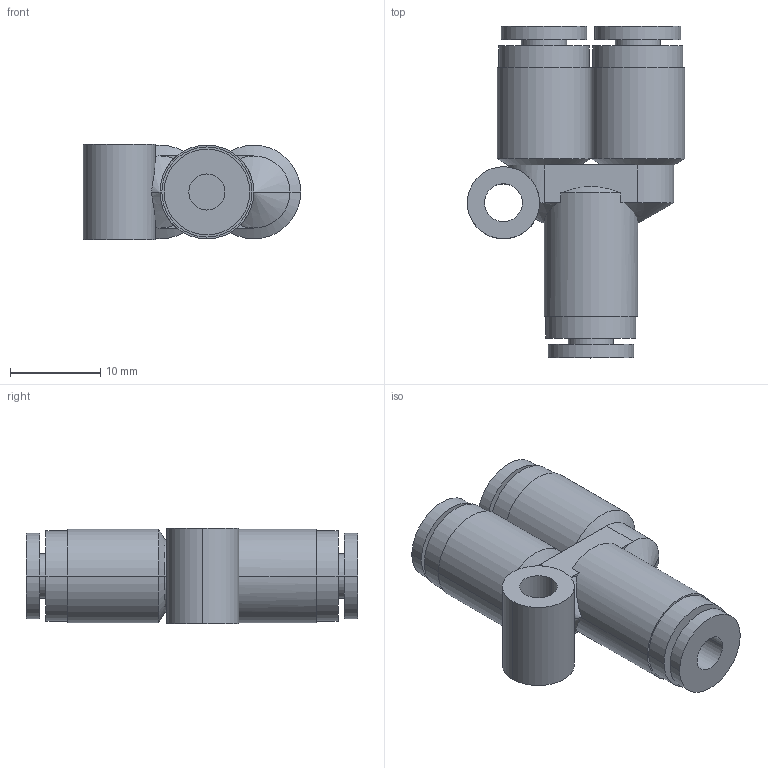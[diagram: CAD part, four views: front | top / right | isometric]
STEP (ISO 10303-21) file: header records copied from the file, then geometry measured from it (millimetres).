
FILE_DESCRIPTION( ( '' ), '1' );
FILE_NAME( 'G:/SMC狟婥/KPU04-00.stp', '2023-03-07T02:13:34', ( '' ), ( '' ), ' ', ' ', ' ' );
FILE_SCHEMA( ( 'CONFIG_CONTROL_DESIGN' ) );
Length unit declared in the file: millimetre
Products named in the file (1): 1
Bounding box: 24.09 x 36.8 x 10.6 mm (x, y, z)
Volume: 4092.6 mm3; surface area: 3401.7 mm2
Topology: 1 solids, 1 shells, 72 faces, 161 edges, 99 vertices
Faces by surface type: cylinder 38, plane 24, cone 10
Entity records: 2199 total; most frequent: CARTESIAN_POINT 515, DIRECTION 379, ORIENTED_EDGE 314, AXIS2_PLACEMENT_3D 161, EDGE_CURVE 157, VERTEX_POINT 99, CIRCLE 88, EDGE_LOOP 86
